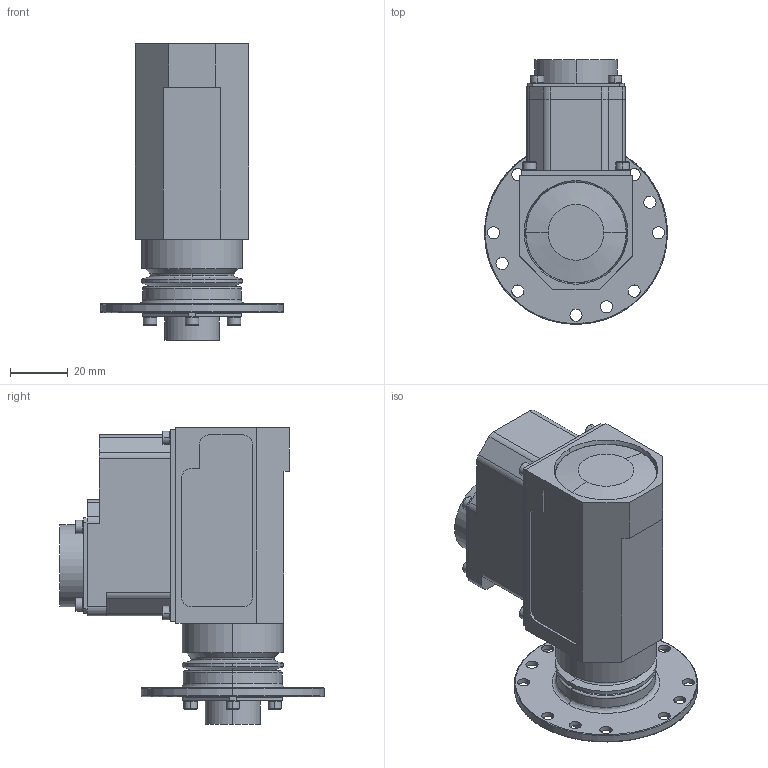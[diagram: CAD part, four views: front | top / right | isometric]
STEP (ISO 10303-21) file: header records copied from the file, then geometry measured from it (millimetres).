
FILE_DESCRIPTION (( 'STEP AP203' ), '1' );
FILE_NAME ('1007697.STEP', '2017-05-15T13:07:39', ( '' ), ( '' ), 'SwSTEP 2.0', 'SolidWorks 2014', '' );
FILE_SCHEMA (( 'CONFIG_CONTROL_DESIGN' ));
Length unit declared in the file: inch
Products named in the file (1): 1007697
Bounding box: 63.47 x 91.73 x 103.04 mm (x, y, z)
Volume: 190147 mm3; surface area: 30341.3 mm2
Topology: 1 solids, 6 shells, 492 faces, 1112 edges, 669 vertices
Faces by surface type: plane 200, cone 148, cylinder 128, bspline 12, torus 4
Entity records: 15025 total; most frequent: CARTESIAN_POINT 3846, DIRECTION 2414, ORIENTED_EDGE 2212, EDGE_CURVE 1106, AXIS2_PLACEMENT_3D 921, VERTEX_POINT 669, VECTOR 572, LINE 572
